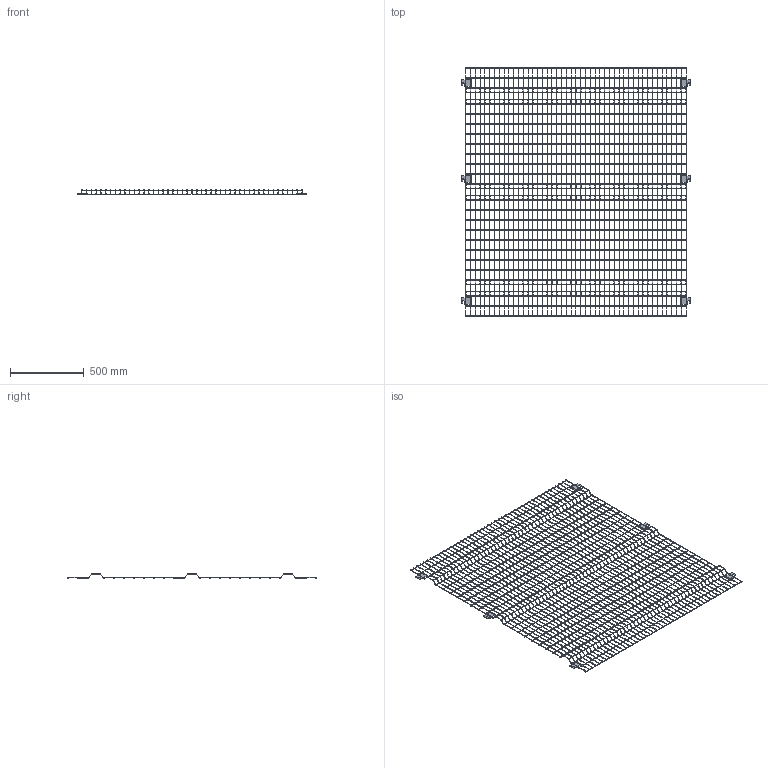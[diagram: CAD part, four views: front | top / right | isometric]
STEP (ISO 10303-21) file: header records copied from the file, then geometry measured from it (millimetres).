
FILE_DESCRIPTION (( 'STEP AP203' ), '1' );
FILE_NAME ('Frameless Panel.STEP', '2023-09-15T16:46:54', ( '' ), ( '' ), 'SwSTEP 2.0', 'SolidWorks 2023', '' );
FILE_SCHEMA (( 'CONFIG_CONTROL_DESIGN' ));
Products named in the file (1): Frameless Panel
Bounding box: 1556 x 1688 x 31.95 mm (x, y, z)
Volume: 1660346.1 mm3; surface area: 1641966.7 mm2
Topology: 83 solids, 83 shells, 2660 faces, 5226 edges, 2732 vertices
Faces by surface type: cylinder 1324, torus 1128, plane 208
Entity records: 67351 total; most frequent: DIRECTION 14324, CARTESIAN_POINT 10619, ORIENTED_EDGE 10452, AXIS2_PLACEMENT_3D 6437, EDGE_CURVE 5226, CIRCLE 3776, VERTEX_POINT 2732, FACE_OUTER_BOUND 2660
